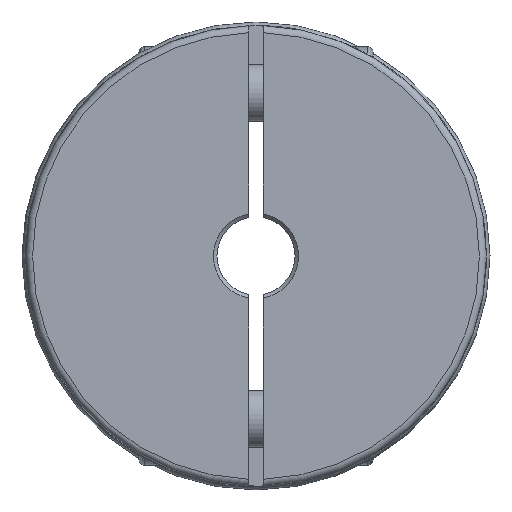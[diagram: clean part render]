
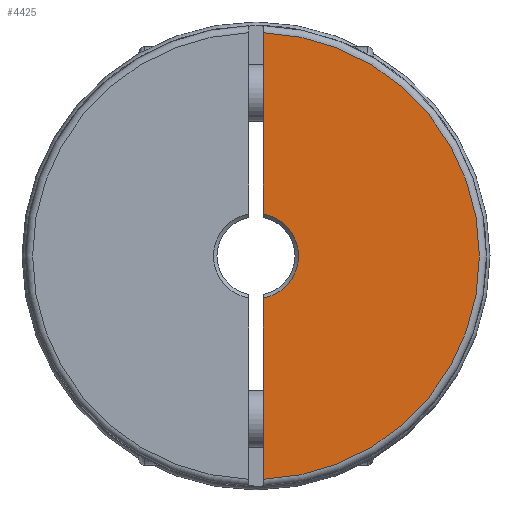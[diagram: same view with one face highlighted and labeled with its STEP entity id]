
A CAD part, left-side view. The second image highlights one B-rep face of the part: STEP entity #4425.
In plain terms, the highlighted planar face has unit normal (-1, 0, 0).
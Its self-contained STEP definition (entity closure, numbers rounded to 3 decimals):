
#22=LINE('',#6445,#158);
#31=LINE('',#6472,#167);
#158=VECTOR('',#5226,1000.);
#167=VECTOR('',#5239,1000.);
#403=PLANE('',#4725);
#713=ORIENTED_EDGE('',*,*,#1368,.T.);
#714=ORIENTED_EDGE('',*,*,#1307,.T.);
#715=ORIENTED_EDGE('',*,*,#1357,.F.);
#716=ORIENTED_EDGE('',*,*,#1386,.F.);
#1307=EDGE_CURVE('',#1688,#1686,#1972,.T.);
#1357=EDGE_CURVE('',#1733,#1686,#22,.T.);
#1368=EDGE_CURVE('',#1739,#1688,#31,.T.);
#1386=EDGE_CURVE('',#1739,#1733,#2012,.T.);
#1686=VERTEX_POINT('',#6067);
#1688=VERTEX_POINT('',#6070);
#1733=VERTEX_POINT('',#6446);
#1739=VERTEX_POINT('',#6473);
#1972=CIRCLE('',#4647,6.);
#2012=CIRCLE('',#4714,31.5);
#2243=EDGE_LOOP('',(#713,#714,#715,#716));
#2583=FACE_BOUND('',#2243,.T.);
#4425=ADVANCED_FACE('',(#2583),#403,.F.);
#4647=AXIS2_PLACEMENT_3D('',#6069,#5126,#5127);
#4714=AXIS2_PLACEMENT_3D('',#6516,#5280,#5281);
#4725=AXIS2_PLACEMENT_3D('',#6527,#5302,#5303);
#5126=DIRECTION('',(1.,0.,0.));
#5127=DIRECTION('',(0.,0.,-1.));
#5226=DIRECTION('',(0.,0.,1.));
#5239=DIRECTION('',(0.,0.,-1.));
#5280=DIRECTION('',(1.,0.,0.));
#5281=DIRECTION('',(0.,0.,-1.));
#5302=DIRECTION('',(1.,0.,0.));
#5303=DIRECTION('',(0.,0.,-1.));
#6067=CARTESIAN_POINT('',(-47.393,-1.,-5.916));
#6069=CARTESIAN_POINT('',(-47.393,0.,0.));
#6070=CARTESIAN_POINT('',(-47.393,-1.,5.916));
#6445=CARTESIAN_POINT('',(-47.393,-1.,32.5));
#6446=CARTESIAN_POINT('',(-47.393,-1.,-31.484));
#6472=CARTESIAN_POINT('',(-47.393,-1.,32.5));
#6473=CARTESIAN_POINT('',(-47.393,-1.,31.484));
#6516=CARTESIAN_POINT('',(-47.393,0.,0.));
#6527=CARTESIAN_POINT('',(-47.393,0.,32.5));
